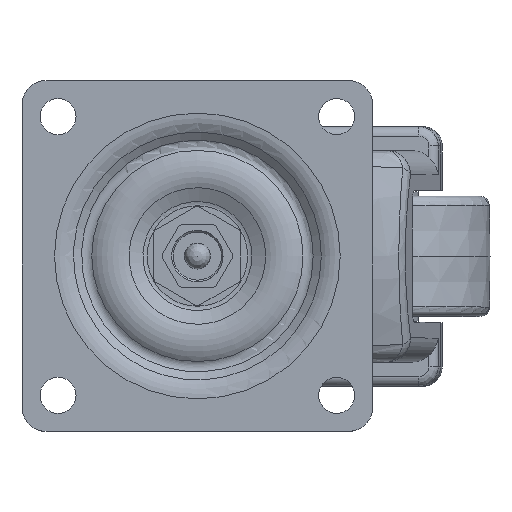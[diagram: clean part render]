
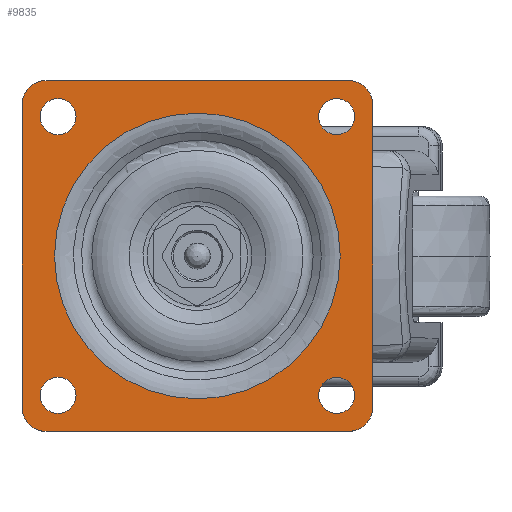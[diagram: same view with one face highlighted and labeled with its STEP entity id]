
A CAD part, top view. The second image highlights one B-rep face of the part: STEP entity #9835.
In plain terms, the highlighted planar face has unit normal (0, 0, 1).
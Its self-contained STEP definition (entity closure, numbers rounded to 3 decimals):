
#379=FACE_BOUND('',#2001,.T.);
#380=FACE_BOUND('',#2002,.T.);
#381=FACE_BOUND('',#2003,.T.);
#382=FACE_BOUND('',#2004,.T.);
#383=FACE_BOUND('',#2005,.T.);
#602=CIRCLE('',#10246,3.75);
#604=CIRCLE('',#10249,3.75);
#606=CIRCLE('',#10252,3.75);
#608=CIRCLE('',#10255,3.75);
#801=CIRCLE('',#10622,5.);
#803=CIRCLE('',#10626,5.);
#805=CIRCLE('',#10630,5.);
#807=CIRCLE('',#10634,5.);
#819=CIRCLE('',#10651,29.732);
#1404=FACE_OUTER_BOUND('',#2000,.T.);
#2000=EDGE_LOOP('',(#7434,#7435,#7436,#7437,#7438,#7439,#7440,#7441));
#2001=EDGE_LOOP('',(#7442));
#2002=EDGE_LOOP('',(#7443));
#2003=EDGE_LOOP('',(#7444));
#2004=EDGE_LOOP('',(#7445));
#2005=EDGE_LOOP('',(#7446));
#2675=LINE('',#18204,#3379);
#2680=LINE('',#18217,#3384);
#2684=LINE('',#18229,#3388);
#2688=LINE('',#18241,#3392);
#3379=VECTOR('',#12484,63.);
#3384=VECTOR('',#12497,63.);
#3388=VECTOR('',#12509,63.);
#3392=VECTOR('',#12521,63.);
#3824=VERTEX_POINT('',#14479);
#3826=VERTEX_POINT('',#14485);
#3828=VERTEX_POINT('',#14491);
#3830=VERTEX_POINT('',#14497);
#4153=VERTEX_POINT('',#18201);
#4154=VERTEX_POINT('',#18203);
#4156=VERTEX_POINT('',#18209);
#4158=VERTEX_POINT('',#18215);
#4160=VERTEX_POINT('',#18221);
#4162=VERTEX_POINT('',#18227);
#4164=VERTEX_POINT('',#18233);
#4166=VERTEX_POINT('',#18239);
#4176=VERTEX_POINT('',#18272);
#4813=EDGE_CURVE('',#3824,#3824,#602,.T.);
#4816=EDGE_CURVE('',#3826,#3826,#604,.T.);
#4819=EDGE_CURVE('',#3828,#3828,#606,.T.);
#4822=EDGE_CURVE('',#3830,#3830,#608,.T.);
#5328=EDGE_CURVE('',#4153,#4154,#2675,.T.);
#5332=EDGE_CURVE('',#4156,#4153,#801,.T.);
#5335=EDGE_CURVE('',#4158,#4156,#2680,.T.);
#5338=EDGE_CURVE('',#4160,#4158,#803,.T.);
#5341=EDGE_CURVE('',#4162,#4160,#2684,.T.);
#5344=EDGE_CURVE('',#4164,#4162,#805,.T.);
#5347=EDGE_CURVE('',#4166,#4164,#2688,.T.);
#5349=EDGE_CURVE('',#4154,#4166,#807,.T.);
#5363=EDGE_CURVE('',#4176,#4176,#819,.T.);
#7434=ORIENTED_EDGE('',*,*,#5349,.F.);
#7435=ORIENTED_EDGE('',*,*,#5328,.F.);
#7436=ORIENTED_EDGE('',*,*,#5332,.F.);
#7437=ORIENTED_EDGE('',*,*,#5335,.F.);
#7438=ORIENTED_EDGE('',*,*,#5338,.F.);
#7439=ORIENTED_EDGE('',*,*,#5341,.F.);
#7440=ORIENTED_EDGE('',*,*,#5344,.F.);
#7441=ORIENTED_EDGE('',*,*,#5347,.F.);
#7442=ORIENTED_EDGE('',*,*,#4813,.T.);
#7443=ORIENTED_EDGE('',*,*,#4816,.T.);
#7444=ORIENTED_EDGE('',*,*,#4819,.T.);
#7445=ORIENTED_EDGE('',*,*,#4822,.T.);
#7446=ORIENTED_EDGE('',*,*,#5363,.T.);
#9404=PLANE('',#10653);
#9835=ADVANCED_FACE('',(#1404,#379,#380,#381,#382,#383),#9404,.T.);
#10246=AXIS2_PLACEMENT_3D('',#14480,#11481,#11482);
#10249=AXIS2_PLACEMENT_3D('',#14486,#11488,#11489);
#10252=AXIS2_PLACEMENT_3D('',#14492,#11495,#11496);
#10255=AXIS2_PLACEMENT_3D('',#14498,#11502,#11503);
#10622=AXIS2_PLACEMENT_3D('',#18211,#12491,#12492);
#10626=AXIS2_PLACEMENT_3D('',#18223,#12503,#12504);
#10630=AXIS2_PLACEMENT_3D('',#18235,#12515,#12516);
#10634=AXIS2_PLACEMENT_3D('',#18244,#12526,#12527);
#10651=AXIS2_PLACEMENT_3D('',#18273,#12562,#12563);
#10653=AXIS2_PLACEMENT_3D('',#18275,#12566,#12567);
#11481=DIRECTION('center_axis',(0.,0.,-1.));
#11482=DIRECTION('ref_axis',(-1.,0.,0.));
#11488=DIRECTION('center_axis',(0.,0.,-1.));
#11489=DIRECTION('ref_axis',(-1.,0.,0.));
#11495=DIRECTION('center_axis',(0.,0.,-1.));
#11496=DIRECTION('ref_axis',(-1.,0.,0.));
#11502=DIRECTION('center_axis',(0.,0.,-1.));
#11503=DIRECTION('ref_axis',(-1.,0.,0.));
#12484=DIRECTION('',(-1.,0.,0.));
#12491=DIRECTION('center_axis',(0.,0.,-1.));
#12492=DIRECTION('ref_axis',(1.,0.,0.));
#12497=DIRECTION('',(0.,-1.,0.));
#12503=DIRECTION('center_axis',(0.,0.,-1.));
#12504=DIRECTION('ref_axis',(1.,0.,0.));
#12509=DIRECTION('',(1.,0.,0.));
#12515=DIRECTION('center_axis',(0.,0.,-1.));
#12516=DIRECTION('ref_axis',(1.,0.,0.));
#12521=DIRECTION('',(0.,1.,0.));
#12526=DIRECTION('center_axis',(0.,0.,-1.));
#12527=DIRECTION('ref_axis',(1.,0.,0.));
#12562=DIRECTION('center_axis',(0.,0.,-1.));
#12563=DIRECTION('ref_axis',(1.,0.,0.));
#12566=DIRECTION('center_axis',(0.,0.,1.));
#12567=DIRECTION('ref_axis',(1.,0.,0.));
#14479=CARTESIAN_POINT('',(-25.25,29.,-0.356));
#14480=CARTESIAN_POINT('Origin',(-29.,29.,-0.356));
#14485=CARTESIAN_POINT('',(32.75,29.,-0.356));
#14486=CARTESIAN_POINT('Origin',(29.,29.,-0.356));
#14491=CARTESIAN_POINT('',(-25.25,-29.,-0.356));
#14492=CARTESIAN_POINT('Origin',(-29.,-29.,-0.356));
#14497=CARTESIAN_POINT('',(32.75,-29.,-0.356));
#14498=CARTESIAN_POINT('Origin',(29.,-29.,-0.356));
#18201=CARTESIAN_POINT('',(31.5,-36.5,-0.356));
#18203=CARTESIAN_POINT('',(-31.5,-36.5,-0.356));
#18204=CARTESIAN_POINT('',(31.5,-36.5,-0.356));
#18209=CARTESIAN_POINT('',(36.5,-31.5,-0.356));
#18211=CARTESIAN_POINT('Origin',(31.5,-31.5,-0.356));
#18215=CARTESIAN_POINT('',(36.5,31.5,-0.356));
#18217=CARTESIAN_POINT('',(36.5,31.5,-0.356));
#18221=CARTESIAN_POINT('',(31.5,36.5,-0.356));
#18223=CARTESIAN_POINT('Origin',(31.5,31.5,-0.356));
#18227=CARTESIAN_POINT('',(-31.5,36.5,-0.356));
#18229=CARTESIAN_POINT('',(-31.5,36.5,-0.356));
#18233=CARTESIAN_POINT('',(-36.5,31.5,-0.356));
#18235=CARTESIAN_POINT('Origin',(-31.5,31.5,-0.356));
#18239=CARTESIAN_POINT('',(-36.5,-31.5,-0.356));
#18241=CARTESIAN_POINT('',(-36.5,-31.5,-0.356));
#18244=CARTESIAN_POINT('Origin',(-31.5,-31.5,-0.356));
#18272=CARTESIAN_POINT('',(29.732,0.,-0.356));
#18273=CARTESIAN_POINT('Origin',(0.,0.,-0.356));
#18275=CARTESIAN_POINT('Origin',(29.806,0.,-0.356));
